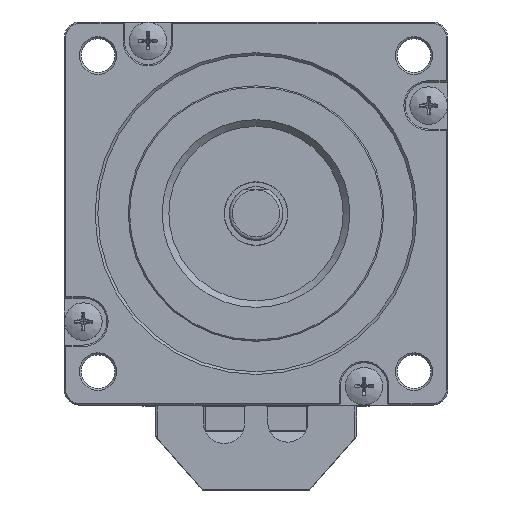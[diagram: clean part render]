
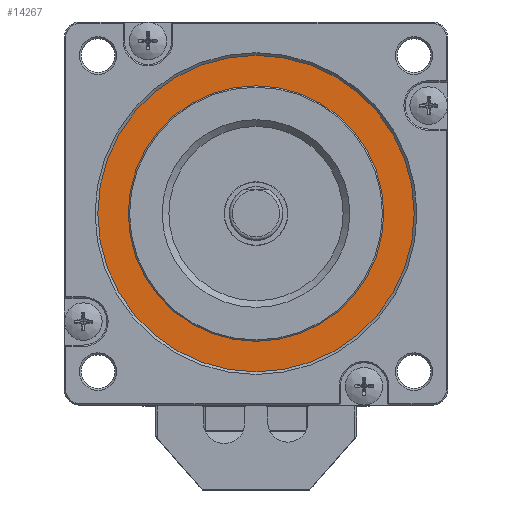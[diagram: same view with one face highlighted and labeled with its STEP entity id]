
A CAD part, top view. The second image highlights one B-rep face of the part: STEP entity #14267.
In plain terms, the highlighted planar face has unit normal (0, 0, 1).
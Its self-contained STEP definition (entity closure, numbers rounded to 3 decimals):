
#280 = CARTESIAN_POINT ( 'NONE',  ( 0., 0., 10.6 ) ) ;
#1784 = CIRCLE ( 'NONE', #2582, 23.6 ) ;
#2283 = AXIS2_PLACEMENT_3D ( 'NONE', #17627, #14088, #3935 ) ;
#2582 = AXIS2_PLACEMENT_3D ( 'NONE', #280, #11954, #10324 ) ;
#2980 = AXIS2_PLACEMENT_3D ( 'NONE', #8106, #19973, #21755 ) ;
#3935 = DIRECTION ( 'NONE',  ( 1., 0., 0. ) ) ;
#4240 = CARTESIAN_POINT ( 'NONE',  ( 23.6, 0., 10.6 ) ) ;
#5572 = PLANE ( 'NONE',  #2283 ) ;
#7696 = ORIENTED_EDGE ( 'NONE', *, *, #12567, .F. ) ;
#8106 = CARTESIAN_POINT ( 'NONE',  ( 0., 0., 10.6 ) ) ;
#9788 = EDGE_LOOP ( 'NONE', ( #17639 ) ) ;
#10307 = CARTESIAN_POINT ( 'NONE',  ( 19.05, 0., 10.6 ) ) ;
#10324 = DIRECTION ( 'NONE',  ( 1., 0., 0. ) ) ;
#11954 = DIRECTION ( 'NONE',  ( 0., 0., 1. ) ) ;
#12567 = EDGE_CURVE ( 'NONE', #20676, #20676, #13018, .T. ) ;
#13018 = CIRCLE ( 'NONE', #2980, 19.05 ) ;
#14025 = FACE_BOUND ( 'NONE', #14344, .T. ) ;
#14081 = EDGE_CURVE ( 'NONE', #14571, #14571, #1784, .T. ) ;
#14088 = DIRECTION ( 'NONE',  ( 0., 0., 1. ) ) ;
#14267 = ADVANCED_FACE ( 'NONE', ( #14025, #17167 ), #5572, .T. ) ;
#14344 = EDGE_LOOP ( 'NONE', ( #7696 ) ) ;
#14571 = VERTEX_POINT ( 'NONE', #4240 ) ;
#17167 = FACE_OUTER_BOUND ( 'NONE', #9788, .T. ) ;
#17627 = CARTESIAN_POINT ( 'NONE',  ( 0., 0., 10.6 ) ) ;
#17639 = ORIENTED_EDGE ( 'NONE', *, *, #14081, .T. ) ;
#19973 = DIRECTION ( 'NONE',  ( 0., 0., 1. ) ) ;
#20676 = VERTEX_POINT ( 'NONE', #10307 ) ;
#21755 = DIRECTION ( 'NONE',  ( 1., 0., 0. ) ) ;
